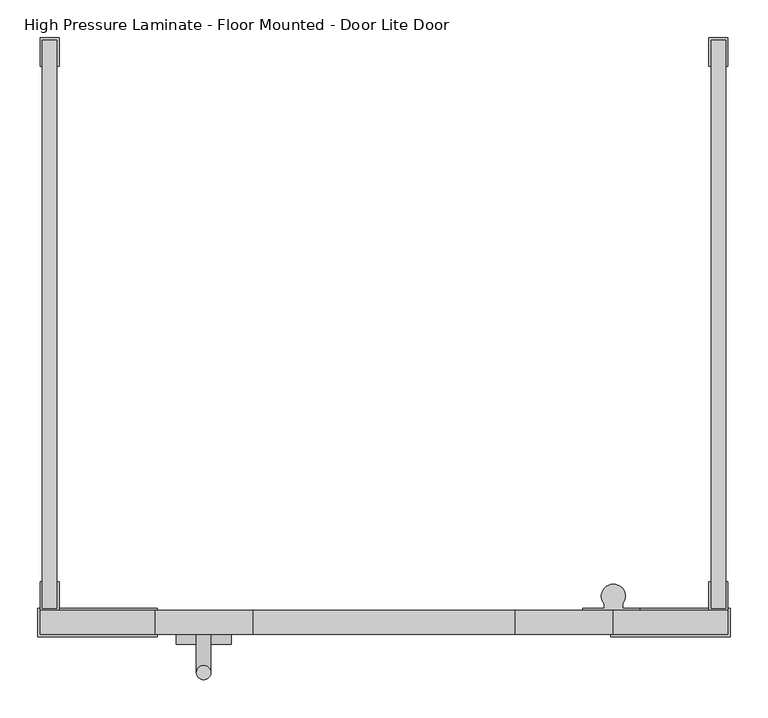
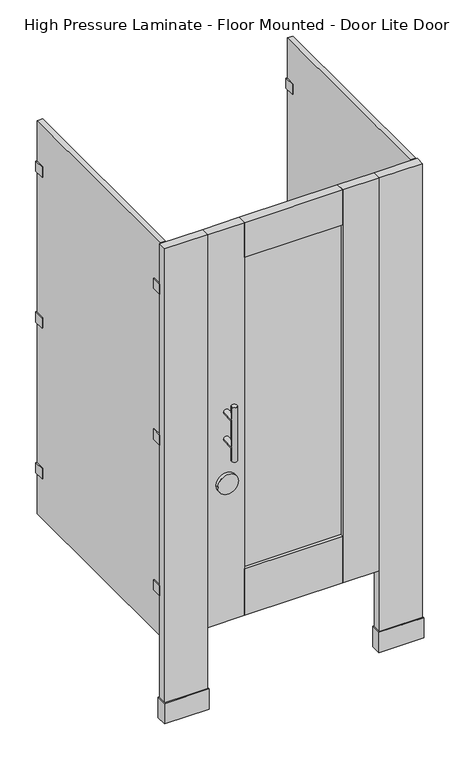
"""IFC4 building model written with IfcOpenShell, lengths in millimetres: proxy geometry, Toilet-Partition_Ironwood-Mfg_High-Pressure-Laminate : High Pressure Laminate - Floor Mounted - Door Lite Door."""

from ifc_helpers import new_model, si_unit, point, frame, frame_2d, origin, origin_with_axes, place, context, project, spatial, polyline, circle_curve, ellipse_curve, trimmed, segment, composite_curve, outline, extrude, source, transform, mapped, element, save
from ifc_brep_helpers import plane_surface, cylinder_surface, advanced_brep


def high_pressure_laminate_floor_mounted_door_lite_door_59ee385d(model_context):
    return source(origin(), model_context, "Body", "SolidModel", [
        extrude(outline(polyline([(701.675, -758.825), (701.675, -796.925), (542.925, -796.925), (542.925, -758.825), (701.675, -758.825)])), origin_with_axes(), (0.0, 0.0, 1.0), 76.2),
        extrude(outline(polyline([(698.5, -762.0), (698.5, -793.75), (546.1, -793.75), (546.1, -762.0), (698.5, -762.0)])), origin_with_axes(), (0.0, 0.0, 1.0), 1778.0),
        extrude(outline(polyline([(-219.075, -758.825), (-60.325, -758.825), (-60.325, -796.925), (-219.075, -796.925), (-219.075, -758.825)])), origin_with_axes(), (0.0, 0.0, 1.0), 76.2),
        extrude(outline(polyline([(-215.9, -762.0), (-63.5, -762.0), (-63.5, -793.75), (-215.9, -793.75), (-215.9, -762.0)])), origin_with_axes(), (0.0, 0.0, 1.0), 1778.0),
        extrude(outline(polyline([(415.925, -782.6375), (66.675, -782.6375), (66.675, -773.1125), (415.925, -773.1125), (415.925, -782.6375)])), frame((0.0, 0.0, 479.425), z_axis=(0.0, 0.0, 1.0), x_axis=(1.0, 0.0, 0.0)), (0.0, 0.0, 1.0), 1168.4),
        extrude(outline(polyline([(66.675, -762.0), (66.675, -793.75), (-63.5, -793.75), (-63.5, -762.0), (66.675, -762.0)])), frame((0.0, 0.0, 304.8), z_axis=(0.0, 0.0, 1.0), x_axis=(1.0, 0.0, 0.0)), (0.0, 0.0, 1.0), 1473.2),
        extrude(outline(polyline([(415.925, -762.0), (546.1, -762.0), (546.1, -793.75), (415.925, -793.75), (415.925, -762.0)])), frame((0.0, 0.0, 304.8), z_axis=(0.0, 0.0, 1.0), x_axis=(1.0, 0.0, 0.0)), (0.0, 0.0, 1.0), 1473.2),
        extrude(outline(polyline([(415.925, -762.0), (415.925, -793.75), (66.675, -793.75), (66.675, -762.0), (415.925, -762.0)])), frame((0.0, 0.0, 1647.825), z_axis=(0.0, 0.0, 1.0), x_axis=(1.0, 0.0, 0.0)), (0.0, 0.0, 1.0), 130.175),
        extrude(outline(polyline([(415.925, -762.0), (415.925, -793.75), (66.675, -793.75), (66.675, -762.0), (415.925, -762.0)])), frame((0.0, 0.0, 304.8), z_axis=(0.0, 0.0, 1.0), x_axis=(1.0, 0.0, 0.0)), (0.0, 0.0, 1.0), 174.625),
        extrude(outline(composite_curve([segment(trimmed(circle_curve(frame_2d((827.0875, 1.5875)), 36.5125), [point((827.0875, -34.925))], [point((827.0875, 38.1))], False, "CARTESIAN"), True, "CONTINUOUS"), segment(trimmed(circle_curve(frame_2d((827.0875, 1.5875)), 36.5125), [point((827.0875, 38.1))], [point((827.0875, -34.925))], False, "CARTESIAN"), True, "CONTINUOUS")], self_intersect=False)), frame((0.0, -806.45, 0.0), z_axis=(0.0, 1.0, 0.0), x_axis=(0.0, 0.0, 1.0)), (0.0, 0.0, 1.0), 12.7),
        advanced_brep(
        [(-7.9375, -793.75, 1092.2), (11.1125, -793.75, 1092.2), (-7.9375, -793.75, 990.6), (11.1125, -793.75, 990.6), (11.1125, -844.55, 1092.2), (-7.9375, -844.55, 1092.2), (11.1125, -844.55, 990.6), (-7.9375, -844.55, 990.6), (-7.9375, -844.55, 1143.0), (11.1125, -844.55, 1143.0), (-7.9375, -844.55, 939.8), (11.1125, -844.55, 939.8)],
        [
            (0, 1, circle_curve(frame((1.5875, -793.75, 1092.2), z_axis=(0.0, 1.0, 0.0), x_axis=(1.0, 0.0, 0.0)), 9.525)),
            (1, 0, circle_curve(frame((1.5875, -793.75, 1092.2), z_axis=(0.0, 1.0, 0.0), x_axis=(1.0, 0.0, 0.0)), 9.525)),
            (2, 3, circle_curve(frame((1.5875, -793.75, 990.6), z_axis=(0.0, 1.0, 0.0), x_axis=(1.0, 0.0, 0.0)), 9.525)),
            (3, 2, circle_curve(frame((1.5875, -793.75, 990.6), z_axis=(0.0, 1.0, 0.0), x_axis=(1.0, 0.0, 0.0)), 9.525)),
            (1, 4),
            (4, 5, ellipse_curve(frame((1.5875, -844.55, 1092.2), z_axis=(0.0, 0.7071067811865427, 0.7071067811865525), x_axis=(0.0, -0.7071067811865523, 0.7071067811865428)), 13.4703842, 9.525)),
            (5, 0),
            (5, 4, ellipse_curve(frame((1.5875, -844.55, 1092.2), z_axis=(0.0, 0.7071067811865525, -0.7071067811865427), x_axis=(0.0, -0.7071067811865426, -0.7071067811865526)), 13.4703842, 9.525)),
            (3, 6),
            (6, 7, ellipse_curve(frame((1.5875, -844.55, 990.6), z_axis=(0.0, 0.7071067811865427, 0.7071067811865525), x_axis=(0.0, -0.7071067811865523, 0.7071067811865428)), 13.4703842, 9.525)),
            (7, 2),
            (7, 6, ellipse_curve(frame((1.5875, -844.55, 990.6), z_axis=(0.0, 0.7071067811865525, -0.7071067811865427), x_axis=(0.0, -0.7071067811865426, -0.7071067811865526)), 13.4703842, 9.525)),
            (8, 9, circle_curve(frame((1.5875, -844.55, 1143.0), z_axis=(0.0, 0.0, 1.0), x_axis=(1.0, 0.0, 0.0)), 9.525)),
            (9, 8, circle_curve(frame((1.5875, -844.55, 1143.0), z_axis=(0.0, 0.0, 1.0), x_axis=(1.0, 0.0, 0.0)), 9.525)),
            (10, 11, circle_curve(frame((1.5875, -844.55, 939.8), z_axis=(0.0, 0.0, -1.0), x_axis=(1.0, 0.0, 0.0)), 9.525)),
            (11, 10, circle_curve(frame((1.5875, -844.55, 939.8), z_axis=(0.0, 0.0, -1.0), x_axis=(1.0, 0.0, 0.0)), 9.525)),
            (8, 5),
            (5, 7),
            (7, 10),
            (11, 6),
            (6, 4),
            (4, 9),
        ],
        [
            plane_surface(frame((11.1125, -793.75, 1092.2), z_axis=(0.0, 1.0, 0.0), x_axis=(0.0, 0.0, -1.0))),
            cylinder_surface(frame((1.5875, -793.75, 1092.2), z_axis=(0.0, -1.0, 0.0), x_axis=(1.0, 0.0, 0.0)), 9.525),
            cylinder_surface(frame((1.5875, -793.75, 990.6), z_axis=(0.0, -1.0, 0.0), x_axis=(1.0, 0.0, 0.0)), 9.525),
            plane_surface(frame((11.1125, -844.55, 1143.0), z_axis=(0.0, 0.0, 1.0), x_axis=(0.0, 1.0, 0.0))),
            plane_surface(frame((11.1125, -844.55, 939.8), z_axis=(0.0, 0.0, -1.0), x_axis=(0.0, -1.0, 0.0))),
            cylinder_surface(frame((1.5875, -844.55, 939.8), z_axis=(0.0, 0.0, 1.0), x_axis=(1.0, 0.0, 0.0)), 9.525),
        ],
        [
            (0, [[1, 2]]),
            (0, [[3, 4]]),
            (1, [[-2, 5, 6, 7]]),
            (1, [[-1, -7, 8, -5]]),
            (2, [[-4, 9, 10, 11]]),
            (2, [[-3, -11, 12, -9]]),
            (3, [[13, 14]]),
            (4, [[15, 16]]),
            (5, [[-13, 17, 18, 19, -16, 20, 21, 22]]),
            (5, [[-14, -22, -8, -17]]),
            (5, [[-15, -19, -10, -20]]),
            (5, [[-18, -6, -21, -12]]),
        ],
    ),
        extrude(outline(composite_curve([segment(polyline([(581.3737081, -762.0), (505.1737081, -762.0), (505.1737081, -758.825), (533.7487081, -758.825), (533.7487081, -752.9581331)]), True, "CONTINUOUS"), segment(trimmed(circle_curve(frame_2d((546.1, -742.8902139)), 15.9347861), [point((533.7487081, -752.9581331))], [point((558.4512919, -752.9581331))], False, "CARTESIAN"), True, "CONTINUOUS"), segment(polyline([(558.4512919, -752.9581331), (558.4512919, -758.825), (581.3737081, -758.825), (581.3737081, -762.0)]), True, "CONTINUOUS")], self_intersect=False)), frame((0.0, 0.0, 1574.8), z_axis=(0.0, 0.0, 1.0), x_axis=(1.0, 0.0, 0.0)), (0.0, 0.0, 1.0), 63.5),
        extrude(outline(composite_curve([segment(polyline([(581.3737081, -762.0), (505.1737081, -762.0), (505.1737081, -758.825), (533.7487081, -758.825), (533.7487081, -752.9581331)]), True, "CONTINUOUS"), segment(trimmed(circle_curve(frame_2d((546.1, -742.8902139)), 15.9347861), [point((533.7487081, -752.9581331))], [point((558.4512919, -752.9581331))], False, "CARTESIAN"), True, "CONTINUOUS"), segment(polyline([(558.4512919, -752.9581331), (558.4512919, -758.825), (581.3737081, -758.825), (581.3737081, -762.0)]), True, "CONTINUOUS")], self_intersect=False)), frame((0.0, 0.0, 1009.6500001), z_axis=(0.0, 0.0, 1.0), x_axis=(1.0, 0.0, 0.0)), (0.0, 0.0, 1.0), 63.5),
        extrude(outline(composite_curve([segment(polyline([(581.3737081, -762.0), (505.1737081, -762.0), (505.1737081, -758.825), (533.7487081, -758.825), (533.7487081, -752.9581331)]), True, "CONTINUOUS"), segment(trimmed(circle_curve(frame_2d((546.1, -742.8902139)), 15.9347861), [point((533.7487081, -752.9581331))], [point((558.4512919, -752.9581331))], False, "CARTESIAN"), True, "CONTINUOUS"), segment(polyline([(558.4512919, -752.9581331), (558.4512919, -758.825), (581.3737081, -758.825), (581.3737081, -762.0)]), True, "CONTINUOUS")], self_intersect=False)), frame((0.0, 0.0, 444.5), z_axis=(0.0, 0.0, 1.0), x_axis=(1.0, 0.0, 0.0)), (0.0, 0.0, 1.0), 63.5),
        extrude(outline(polyline([(676.148, -723.9), (676.148, -758.825), (695.198, -758.825), (695.198, -723.9), (698.373, -723.9), (698.373, -762.0), (672.973, -762.0), (672.973, -723.9), (676.148, -723.9)])), frame((0.0, 0.0, 1587.8188137), z_axis=(0.0, 0.0, 1.0), x_axis=(1.0, 0.0, 0.0)), (0.0, 0.0, 1.0), 38.1),
        extrude(outline(polyline([(676.148, -38.1), (672.973, -38.1), (672.973, 0.0), (698.373, 0.0), (698.373, -38.1), (695.198, -38.1), (695.198, -3.175), (676.148, -3.175), (676.148, -38.1)])), frame((0.0, 0.0, 1587.8188137), z_axis=(0.0, 0.0, 1.0), x_axis=(1.0, 0.0, 0.0)), (0.0, 0.0, 1.0), 38.1),
        extrude(outline(polyline([(676.148, -723.9), (676.148, -758.825), (695.198, -758.825), (695.198, -723.9), (698.373, -723.9), (698.373, -762.0), (672.973, -762.0), (672.973, -723.9), (676.148, -723.9)])), frame((0.0, 0.0, 1022.35), z_axis=(0.0, 0.0, 1.0), x_axis=(1.0, 0.0, 0.0)), (0.0, 0.0, 1.0), 38.1),
        extrude(outline(polyline([(676.148, -38.1), (672.973, -38.1), (672.973, 0.0), (698.373, 0.0), (698.373, -38.1), (695.198, -38.1), (695.198, -3.175), (676.148, -3.175), (676.148, -38.1)])), frame((0.0, 0.0, 1022.35), z_axis=(0.0, 0.0, 1.0), x_axis=(1.0, 0.0, 0.0)), (0.0, 0.0, 1.0), 38.1),
        extrude(outline(polyline([(676.148, -723.9), (676.148, -758.825), (695.198, -758.825), (695.198, -723.9), (698.373, -723.9), (698.373, -762.0), (672.973, -762.0), (672.973, -723.9), (676.148, -723.9)])), frame((0.0, 0.0, 457.2), z_axis=(0.0, 0.0, 1.0), x_axis=(1.0, 0.0, 0.0)), (0.0, 0.0, 1.0), 38.1),
        extrude(outline(polyline([(676.148, -38.1), (672.973, -38.1), (672.973, 0.0), (698.373, 0.0), (698.373, -38.1), (695.198, -38.1), (695.198, -3.175), (676.148, -3.175), (676.148, -38.1)])), frame((0.0, 0.0, 457.2), z_axis=(0.0, 0.0, 1.0), x_axis=(1.0, 0.0, 0.0)), (0.0, 0.0, 1.0), 38.1),
        extrude(outline(polyline([(-212.598, -723.9), (-212.598, -758.825), (-193.548, -758.825), (-193.548, -723.9), (-190.373, -723.9), (-190.373, -762.0), (-215.773, -762.0), (-215.773, -723.9), (-212.598, -723.9)])), frame((0.0, 0.0, 1587.8188137), z_axis=(0.0, 0.0, 1.0), x_axis=(1.0, 0.0, 0.0)), (0.0, 0.0, 1.0), 38.1),
        extrude(outline(polyline([(-212.598, -38.1), (-215.773, -38.1), (-215.773, 0.0), (-190.373, 0.0), (-190.373, -38.1), (-193.548, -38.1), (-193.548, -3.175), (-212.598, -3.175), (-212.598, -38.1)])), frame((0.0, 0.0, 1587.8188137), z_axis=(0.0, 0.0, 1.0), x_axis=(1.0, 0.0, 0.0)), (0.0, 0.0, 1.0), 38.1),
        extrude(outline(polyline([(-212.598, -723.9), (-212.598, -758.825), (-193.548, -758.825), (-193.548, -723.9), (-190.373, -723.9), (-190.373, -762.0), (-215.773, -762.0), (-215.773, -723.9), (-212.598, -723.9)])), frame((0.0, 0.0, 1022.35), z_axis=(0.0, 0.0, 1.0), x_axis=(1.0, 0.0, 0.0)), (0.0, 0.0, 1.0), 38.1),
        extrude(outline(polyline([(-212.598, -38.1), (-215.773, -38.1), (-215.773, 0.0), (-190.373, 0.0), (-190.373, -38.1), (-193.548, -38.1), (-193.548, -3.175), (-212.598, -3.175), (-212.598, -38.1)])), frame((0.0, 0.0, 1022.35), z_axis=(0.0, 0.0, 1.0), x_axis=(1.0, 0.0, 0.0)), (0.0, 0.0, 1.0), 38.1),
        extrude(outline(polyline([(-212.598, -723.9), (-212.598, -758.825), (-193.548, -758.825), (-193.548, -723.9), (-190.373, -723.9), (-190.373, -762.0), (-215.773, -762.0), (-215.773, -723.9), (-212.598, -723.9)])), frame((0.0, 0.0, 457.2), z_axis=(0.0, 0.0, 1.0), x_axis=(1.0, 0.0, 0.0)), (0.0, 0.0, 1.0), 38.1),
        extrude(outline(polyline([(-212.598, -38.1), (-215.773, -38.1), (-215.773, 0.0), (-190.373, 0.0), (-190.373, -38.1), (-193.548, -38.1), (-193.548, -3.175), (-212.598, -3.175), (-212.598, -38.1)])), frame((0.0, 0.0, 457.2), z_axis=(0.0, 0.0, 1.0), x_axis=(1.0, 0.0, 0.0)), (0.0, 0.0, 1.0), 38.1),
        extrude(outline(polyline([(-193.548, -3.175), (-193.548, -758.825), (-212.598, -758.825), (-212.598, -3.175), (-193.548, -3.175)])), frame((0.0, 0.0, 304.8), z_axis=(0.0, 0.0, 1.0), x_axis=(1.0, 0.0, 0.0)), (0.0, 0.0, 1.0), 1473.2),
        extrude(outline(polyline([(695.198, -3.175), (695.198, -758.825), (676.148, -758.825), (676.148, -3.175), (695.198, -3.175)])), frame((0.0, 0.0, 304.8), z_axis=(0.0, 0.0, 1.0), x_axis=(1.0, 0.0, 0.0)), (0.0, 0.0, 1.0), 1473.2),
    ])


if __name__ == "__main__":
    model = new_model("IFC4")
    model_context = context("Model", 3, world=origin())
    ifc_project = project(units=[si_unit("LENGTHUNIT", "METRE", prefix="MILLI")], contexts=[model_context])
    site = spatial("IfcSite", under=ifc_project)
    building = spatial("IfcBuilding", under=site)
    placement = place(None, origin())
    high_pressure_laminate_floor_mounted_door_lite_door_shape = high_pressure_laminate_floor_mounted_door_lite_door_59ee385d(model_context)
    element("IfcBuildingElementProxy", 1, Name="Toilet-Partition_Ironwood-Mfg_High-Pressure-Laminate : High Pressure Laminate - Floor Mounted - Door Lite Door", ObjectType="Toilet-Partition_Ironwood-Mfg_High-Pressure-Laminate : High Pressure Laminate - Floor Mounted - Door Lite Door", at=placement, inside=building, context=model_context, shape_type="MappedRepresentation", body=[
        mapped(high_pressure_laminate_floor_mounted_door_lite_door_shape, transform((0.0, 0.0, 0.0), x_axis=(1.0, 0.0, 0.0), y_axis=(0.0, 1.0, 0.0), z_axis=(0.0, 0.0, 1.0))),
    ])
    save(model, "model.ifc")
